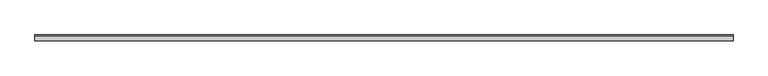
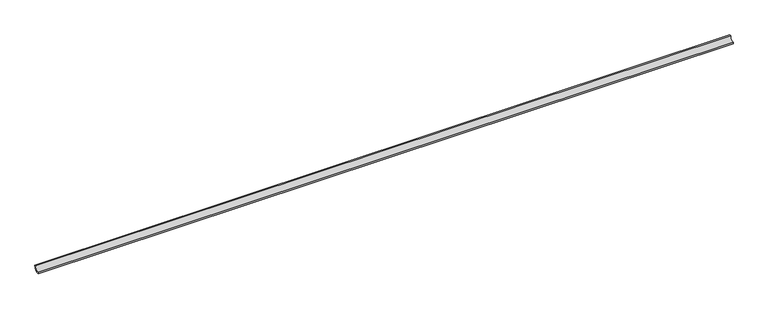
"""IFC4 building model written with IfcOpenShell, lengths in millimetres: proxy geometry, EXAGRES - Piscina Mediacaña1 : Publica_Azul_24.5x4cm."""

from ifc_helpers import new_model, si_unit, point, frame, frame_2d, origin, place, context, project, spatial, polyline, circle_curve, trimmed, segment, composite_curve, outline, extrude, source, transform, mapped, element, save


def generic_models_37207ae5(model_context):
    return source(origin(), model_context, "Body", "SweptSolid", [
        extrude(outline(composite_curve([segment(trimmed(circle_curve(frame_2d((-26.0, 26.0)), 26.0), [point((-26.0, 0.0))], [point((0.0, 26.0))], True, "CARTESIAN"), True, "CONTINUOUS"), segment(polyline([(0.0, 26.0), (8.5, 26.0)]), True, "CONTINUOUS"), segment(trimmed(circle_curve(frame_2d((-26.0, 26.0)), 34.5), [point((8.5, 26.0))], [point((-26.0, -8.5))], False, "CARTESIAN"), True, "CONTINUOUS"), segment(polyline([(-26.0, -8.5), (-26.0, 0.0)]), True, "CONTINUOUS")], self_intersect=False)), frame((0.0, 0.0, 0.0), z_axis=(1.0, 0.0, 0.0), x_axis=(0.0, 1.0, 0.0)), (0.0, 0.0, 1.0), 4123.1056256),
    ])


if __name__ == "__main__":
    model = new_model("IFC4")
    model_context = context("Model", 3, world=origin())
    ifc_project = project(units=[si_unit("LENGTHUNIT", "METRE", prefix="MILLI")], contexts=[model_context])
    site = spatial("IfcSite", under=ifc_project)
    building = spatial("IfcBuilding", under=site)
    placement = place(None, origin())
    generic_models_shape = generic_models_37207ae5(model_context)
    element("IfcBuildingElementProxy", 1, Name="EXAGRES - Piscina Mediacaña1 : Publica_Azul_24.5x4cm", ObjectType="EXAGRES - Piscina Mediacaña1 : Publica_Azul_24.5x4cm", at=placement, inside=building, context=model_context, shape_type="MappedRepresentation", body=[
        mapped(generic_models_shape, transform((0.0, 0.0, 0.0), x_axis=(1.0, 0.0, 0.0), y_axis=(0.0, 1.0, 0.0), z_axis=(0.0, 0.0, 1.0))),
    ])
    save(model, "model.ifc")
